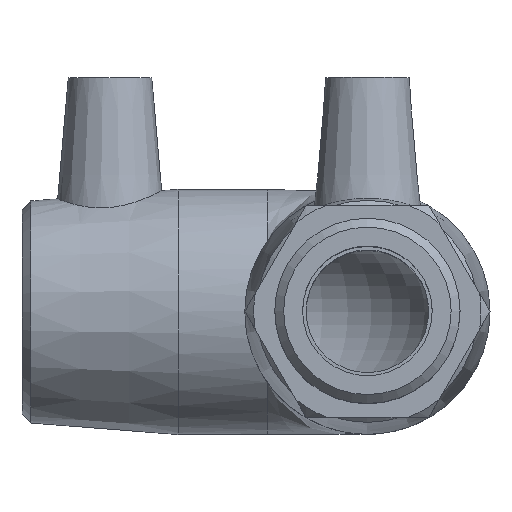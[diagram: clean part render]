
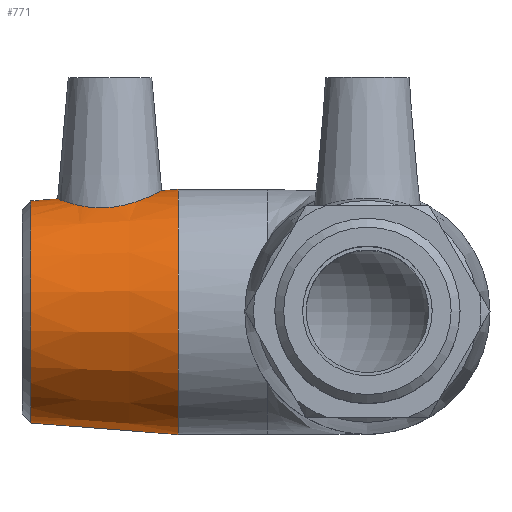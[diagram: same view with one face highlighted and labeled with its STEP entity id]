
A CAD part, top view. The second image highlights one B-rep face of the part: STEP entity #771.
In plain terms, the highlighted conical face has half-angle 4.493 degrees and reference radius 20.9 mm.
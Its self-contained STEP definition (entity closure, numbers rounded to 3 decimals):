
#17=B_SPLINE_CURVE_WITH_KNOTS('',3,(#1342,#1343,#1344,#1345,#1346,#1347,
#1348,#1349,#1350,#1351,#1352,#1353,#1354,#1355,#1356,#1357,#1358,#1359,
#1360,#1361,#1362,#1363,#1364,#1365,#1366,#1367,#1368,#1369,#1370,#1371,
#1372,#1373,#1374,#1375),.UNSPECIFIED.,.T.,.F.,(4,2,2,2,2,2,2,2,2,2,2,2,
2,2,2,2,4),(0.,0.349,0.699,1.051,1.403,
1.755,2.107,2.456,2.805,3.184,
3.562,3.93,4.297,4.665,5.033,
5.411,5.789),.UNSPECIFIED.);
#123=FACE_BOUND('',#248,.T.);
#124=FACE_BOUND('',#249,.T.);
#180=FACE_OUTER_BOUND('',#247,.T.);
#247=EDGE_LOOP('',(#642));
#248=EDGE_LOOP('',(#643));
#249=EDGE_LOOP('',(#644));
#333=CIRCLE('',#854,19.925);
#334=CIRCLE('',#856,22.);
#407=VERTEX_POINT('',#1336);
#408=VERTEX_POINT('',#1339);
#409=VERTEX_POINT('',#1341);
#501=EDGE_CURVE('',#407,#407,#333,.T.);
#502=EDGE_CURVE('',#408,#408,#334,.T.);
#503=EDGE_CURVE('',#409,#409,#17,.T.);
#642=ORIENTED_EDGE('',*,*,#502,.F.);
#643=ORIENTED_EDGE('',*,*,#503,.T.);
#644=ORIENTED_EDGE('',*,*,#501,.F.);
#738=CONICAL_SURFACE('',#855,20.9,4.493);
#771=ADVANCED_FACE('',(#180,#123,#124),#738,.T.);
#854=AXIS2_PLACEMENT_3D('',#1337,#1028,#1029);
#855=AXIS2_PLACEMENT_3D('',#1338,#1030,#1031);
#856=AXIS2_PLACEMENT_3D('',#1340,#1032,#1033);
#1028=DIRECTION('center_axis',(-1.,0.,0.));
#1029=DIRECTION('ref_axis',(0.,-1.,0.));
#1030=DIRECTION('center_axis',(1.,0.,0.));
#1031=DIRECTION('ref_axis',(0.,1.,0.));
#1032=DIRECTION('center_axis',(1.,0.,0.));
#1033=DIRECTION('ref_axis',(0.,0.,-1.));
#1336=CARTESIAN_POINT('',(-60.405,19.925,0.));
#1337=CARTESIAN_POINT('Origin',(-60.405,0.,0.));
#1338=CARTESIAN_POINT('Origin',(-48.,0.,0.));
#1339=CARTESIAN_POINT('',(-34.,22.,0.));
#1340=CARTESIAN_POINT('Origin',(-34.,0.,0.));
#1341=CARTESIAN_POINT('',(-46.598,18.726,9.528));
#1342=CARTESIAN_POINT('Ctrl Pts',(-46.598,18.726,9.528));
#1343=CARTESIAN_POINT('Ctrl Pts',(-47.759,18.644,9.487));
#1344=CARTESIAN_POINT('Ctrl Pts',(-48.984,18.684,9.206));
#1345=CARTESIAN_POINT('Ctrl Pts',(-51.208,18.964,8.183));
#1346=CARTESIAN_POINT('Ctrl Pts',(-52.209,19.196,7.441));
#1347=CARTESIAN_POINT('Ctrl Pts',(-53.782,19.634,5.768));
#1348=CARTESIAN_POINT('Ctrl Pts',(-54.465,19.873,4.718));
#1349=CARTESIAN_POINT('Ctrl Pts',(-55.373,20.209,2.421));
#1350=CARTESIAN_POINT('Ctrl Pts',(-55.598,20.303,1.173));
#1351=CARTESIAN_POINT('Ctrl Pts',(-55.598,20.303,-1.173));
#1352=CARTESIAN_POINT('Ctrl Pts',(-55.373,20.209,-2.421));
#1353=CARTESIAN_POINT('Ctrl Pts',(-54.465,19.873,-4.718));
#1354=CARTESIAN_POINT('Ctrl Pts',(-53.782,19.634,-5.768));
#1355=CARTESIAN_POINT('Ctrl Pts',(-52.209,19.196,-7.441));
#1356=CARTESIAN_POINT('Ctrl Pts',(-51.208,18.964,-8.183));
#1357=CARTESIAN_POINT('Ctrl Pts',(-48.984,18.684,-9.206));
#1358=CARTESIAN_POINT('Ctrl Pts',(-47.759,18.644,-9.487));
#1359=CARTESIAN_POINT('Ctrl Pts',(-45.341,18.814,-9.573));
#1360=CARTESIAN_POINT('Ctrl Pts',(-44.026,19.052,-9.345));
#1361=CARTESIAN_POINT('Ctrl Pts',(-41.634,19.702,-8.375));
#1362=CARTESIAN_POINT('Ctrl Pts',(-40.555,20.105,-7.632));
#1363=CARTESIAN_POINT('Ctrl Pts',(-38.876,20.805,-5.937));
#1364=CARTESIAN_POINT('Ctrl Pts',(-38.15,21.153,-4.874));
#1365=CARTESIAN_POINT('Ctrl Pts',(-37.177,21.637,-2.519));
#1366=CARTESIAN_POINT('Ctrl Pts',(-36.93,21.77,-1.226));
#1367=CARTESIAN_POINT('Ctrl Pts',(-36.93,21.77,1.226));
#1368=CARTESIAN_POINT('Ctrl Pts',(-37.177,21.637,2.519));
#1369=CARTESIAN_POINT('Ctrl Pts',(-38.15,21.153,4.874));
#1370=CARTESIAN_POINT('Ctrl Pts',(-38.876,20.805,5.937));
#1371=CARTESIAN_POINT('Ctrl Pts',(-40.555,20.105,7.632));
#1372=CARTESIAN_POINT('Ctrl Pts',(-41.634,19.702,8.375));
#1373=CARTESIAN_POINT('Ctrl Pts',(-44.026,19.052,9.345));
#1374=CARTESIAN_POINT('Ctrl Pts',(-45.341,18.814,9.573));
#1375=CARTESIAN_POINT('Ctrl Pts',(-46.598,18.726,9.528));
